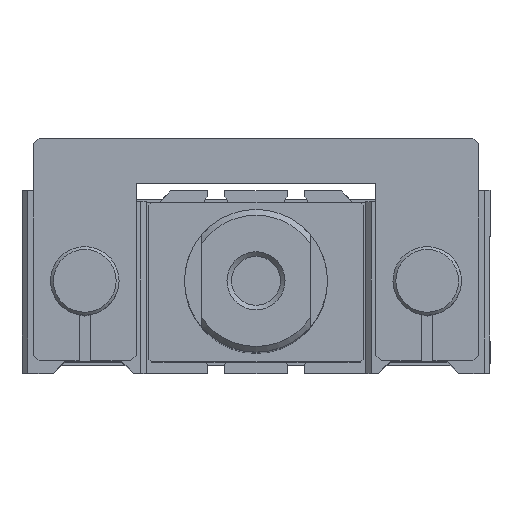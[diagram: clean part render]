
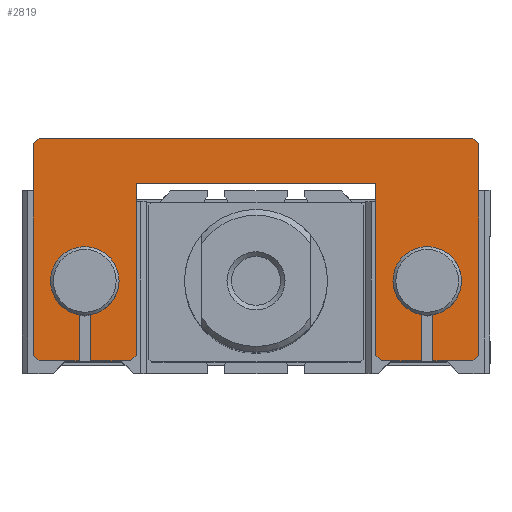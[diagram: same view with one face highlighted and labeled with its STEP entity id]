
A CAD part, top view. The second image highlights one B-rep face of the part: STEP entity #2819.
In plain terms, the highlighted planar face has unit normal (0, 0, 1).
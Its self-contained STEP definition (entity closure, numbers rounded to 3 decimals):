
#291=CARTESIAN_POINT('',(-29.0,-5.916,154.0));
#292=VERTEX_POINT('',#291);
#293=CARTESIAN_POINT('',(-31.0,-5.916,154.0));
#294=VERTEX_POINT('',#293);
#295=CARTESIAN_POINT('',(-30.0,0.0,154.0));
#296=DIRECTION('',(0.0,0.0,1.0));
#297=DIRECTION('',(0.0,-1.0,0.0));
#298=AXIS2_PLACEMENT_3D('',#295,#296,#297);
#299=CIRCLE('',#298,6.);
#300=EDGE_CURVE('',#292,#294,#299,.T.);
#378=CARTESIAN_POINT('',(31.,-5.916,154.0));
#379=VERTEX_POINT('',#378);
#380=CARTESIAN_POINT('',(29.,-5.916,154.0));
#381=VERTEX_POINT('',#380);
#382=CARTESIAN_POINT('',(30.0,0.0,154.0));
#383=DIRECTION('',(0.0,0.0,1.0));
#384=DIRECTION('',(0.0,-1.0,0.0));
#385=AXIS2_PLACEMENT_3D('',#382,#383,#384);
#386=CIRCLE('',#385,6.);
#387=EDGE_CURVE('',#379,#381,#386,.T.);
#2365=CARTESIAN_POINT('',(-39.0,24.,154.0));
#2366=VERTEX_POINT('',#2365);
#2367=CARTESIAN_POINT('',(-38.0,25.,154.0));
#2368=VERTEX_POINT('',#2367);
#2369=CARTESIAN_POINT('',(-39.0,24.,154.0));
#2370=DIRECTION('',(0.707,0.707,0.0));
#2371=VECTOR('',#2370,1.414);
#2372=LINE('',#2369,#2371);
#2373=EDGE_CURVE('',#2366,#2368,#2372,.T.);
#2429=CARTESIAN_POINT('',(-39.0,-13.,154.0));
#2430=VERTEX_POINT('',#2429);
#2437=CARTESIAN_POINT('',(-39.0,24.,154.0));
#2438=DIRECTION('',(0.0,-1.0,0.0));
#2439=VECTOR('',#2438,37.);
#2440=LINE('',#2437,#2439);
#2441=EDGE_CURVE('',#2366,#2430,#2440,.T.);
#2622=CARTESIAN_POINT('',(38.0,25.,154.0));
#2623=VERTEX_POINT('',#2622);
#2630=CARTESIAN_POINT('',(39.0,24.,154.0));
#2631=VERTEX_POINT('',#2630);
#2632=CARTESIAN_POINT('',(38.0,25.,154.0));
#2633=DIRECTION('',(0.707,-0.707,0.0));
#2634=VECTOR('',#2633,1.414);
#2635=LINE('',#2632,#2634);
#2636=EDGE_CURVE('',#2623,#2631,#2635,.T.);
#2653=CARTESIAN_POINT('',(39.0,-13.,154.0));
#2654=VERTEX_POINT('',#2653);
#2655=CARTESIAN_POINT('',(39.0,-13.,154.0));
#2656=DIRECTION('',(0.0,1.0,0.0));
#2657=VECTOR('',#2656,37.0);
#2658=LINE('',#2655,#2657);
#2659=EDGE_CURVE('',#2654,#2631,#2658,.T.);
#2686=CARTESIAN_POINT('',(0.0,-14.,154.0));
#2687=DIRECTION('',(0.0,0.0,1.0));
#2688=DIRECTION('',(1.0,0.0,0.0));
#2689=AXIS2_PLACEMENT_3D('',#2686,#2687,#2688);
#2690=PLANE('',#2689);
#2691=ORIENTED_EDGE('',*,*,#2373,.F.);
#2692=ORIENTED_EDGE('',*,*,#2441,.T.);
#2693=CARTESIAN_POINT('',(-38.0,-14.,154.0));
#2694=VERTEX_POINT('',#2693);
#2695=CARTESIAN_POINT('',(-38.0,-14.,154.0));
#2696=DIRECTION('',(-0.707,0.707,0.0));
#2697=VECTOR('',#2696,1.414);
#2698=LINE('',#2695,#2697);
#2699=EDGE_CURVE('',#2694,#2430,#2698,.T.);
#2700=ORIENTED_EDGE('',*,*,#2699,.F.);
#2701=CARTESIAN_POINT('',(-31.0,-14.,154.0));
#2702=VERTEX_POINT('',#2701);
#2703=CARTESIAN_POINT('',(-38.0,-14.,154.0));
#2704=DIRECTION('',(1.0,0.0,0.0));
#2705=VECTOR('',#2704,7.0);
#2706=LINE('',#2703,#2705);
#2707=EDGE_CURVE('',#2694,#2702,#2706,.T.);
#2708=ORIENTED_EDGE('',*,*,#2707,.T.);
#2709=CARTESIAN_POINT('',(-31.0,-14.,154.0));
#2710=DIRECTION('',(0.0,1.0,0.0));
#2711=VECTOR('',#2710,8.084);
#2712=LINE('',#2709,#2711);
#2713=EDGE_CURVE('',#2702,#294,#2712,.T.);
#2714=ORIENTED_EDGE('',*,*,#2713,.T.);
#2715=ORIENTED_EDGE('',*,*,#300,.F.);
#2716=CARTESIAN_POINT('',(-29.0,-14.,154.0));
#2717=VERTEX_POINT('',#2716);
#2718=CARTESIAN_POINT('',(-29.0,-5.916,154.0));
#2719=DIRECTION('',(0.0,-1.0,0.0));
#2720=VECTOR('',#2719,8.084);
#2721=LINE('',#2718,#2720);
#2722=EDGE_CURVE('',#292,#2717,#2721,.T.);
#2723=ORIENTED_EDGE('',*,*,#2722,.T.);
#2724=CARTESIAN_POINT('',(-22.0,-14.,154.0));
#2725=VERTEX_POINT('',#2724);
#2726=CARTESIAN_POINT('',(-29.0,-14.,154.0));
#2727=DIRECTION('',(1.0,0.0,0.0));
#2728=VECTOR('',#2727,7.0);
#2729=LINE('',#2726,#2728);
#2730=EDGE_CURVE('',#2717,#2725,#2729,.T.);
#2731=ORIENTED_EDGE('',*,*,#2730,.T.);
#2732=CARTESIAN_POINT('',(-21.0,-13.,154.0));
#2733=VERTEX_POINT('',#2732);
#2734=CARTESIAN_POINT('',(-21.0,-13.,154.0));
#2735=DIRECTION('',(-0.707,-0.707,0.0));
#2736=VECTOR('',#2735,1.414);
#2737=LINE('',#2734,#2736);
#2738=EDGE_CURVE('',#2733,#2725,#2737,.T.);
#2739=ORIENTED_EDGE('',*,*,#2738,.F.);
#2740=CARTESIAN_POINT('',(-21.0,17.,154.0));
#2741=VERTEX_POINT('',#2740);
#2742=CARTESIAN_POINT('',(-21.0,-13.,154.0));
#2743=DIRECTION('',(0.0,1.0,0.0));
#2744=VECTOR('',#2743,30.);
#2745=LINE('',#2742,#2744);
#2746=EDGE_CURVE('',#2733,#2741,#2745,.T.);
#2747=ORIENTED_EDGE('',*,*,#2746,.T.);
#2748=CARTESIAN_POINT('',(21.0,17.,154.0));
#2749=VERTEX_POINT('',#2748);
#2750=CARTESIAN_POINT('',(-21.0,17.,154.0));
#2751=DIRECTION('',(1.0,0.0,0.0));
#2752=VECTOR('',#2751,42.0);
#2753=LINE('',#2750,#2752);
#2754=EDGE_CURVE('',#2741,#2749,#2753,.T.);
#2755=ORIENTED_EDGE('',*,*,#2754,.T.);
#2756=CARTESIAN_POINT('',(21.0,-13.,154.0));
#2757=VERTEX_POINT('',#2756);
#2758=CARTESIAN_POINT('',(21.0,17.,154.0));
#2759=DIRECTION('',(0.0,-1.0,0.0));
#2760=VECTOR('',#2759,30.);
#2761=LINE('',#2758,#2760);
#2762=EDGE_CURVE('',#2749,#2757,#2761,.T.);
#2763=ORIENTED_EDGE('',*,*,#2762,.T.);
#2764=CARTESIAN_POINT('',(22.0,-14.,154.0));
#2765=VERTEX_POINT('',#2764);
#2766=CARTESIAN_POINT('',(22.0,-14.,154.0));
#2767=DIRECTION('',(-0.707,0.707,0.0));
#2768=VECTOR('',#2767,1.414);
#2769=LINE('',#2766,#2768);
#2770=EDGE_CURVE('',#2765,#2757,#2769,.T.);
#2771=ORIENTED_EDGE('',*,*,#2770,.F.);
#2772=CARTESIAN_POINT('',(29.,-14.,154.0));
#2773=VERTEX_POINT('',#2772);
#2774=CARTESIAN_POINT('',(22.0,-14.,154.0));
#2775=DIRECTION('',(1.0,0.0,0.0));
#2776=VECTOR('',#2775,7.);
#2777=LINE('',#2774,#2776);
#2778=EDGE_CURVE('',#2765,#2773,#2777,.T.);
#2779=ORIENTED_EDGE('',*,*,#2778,.T.);
#2780=CARTESIAN_POINT('',(29.,-14.,154.0));
#2781=DIRECTION('',(0.0,1.0,0.0));
#2782=VECTOR('',#2781,8.084);
#2783=LINE('',#2780,#2782);
#2784=EDGE_CURVE('',#2773,#381,#2783,.T.);
#2785=ORIENTED_EDGE('',*,*,#2784,.T.);
#2786=ORIENTED_EDGE('',*,*,#387,.F.);
#2787=CARTESIAN_POINT('',(31.,-14.,154.0));
#2788=VERTEX_POINT('',#2787);
#2789=CARTESIAN_POINT('',(31.,-5.916,154.0));
#2790=DIRECTION('',(0.0,-1.0,0.0));
#2791=VECTOR('',#2790,8.084);
#2792=LINE('',#2789,#2791);
#2793=EDGE_CURVE('',#379,#2788,#2792,.T.);
#2794=ORIENTED_EDGE('',*,*,#2793,.T.);
#2795=CARTESIAN_POINT('',(38.0,-14.,154.0));
#2796=VERTEX_POINT('',#2795);
#2797=CARTESIAN_POINT('',(31.,-14.,154.0));
#2798=DIRECTION('',(1.0,0.0,0.0));
#2799=VECTOR('',#2798,7.);
#2800=LINE('',#2797,#2799);
#2801=EDGE_CURVE('',#2788,#2796,#2800,.T.);
#2802=ORIENTED_EDGE('',*,*,#2801,.T.);
#2803=CARTESIAN_POINT('',(39.0,-13.,154.0));
#2804=DIRECTION('',(-0.707,-0.707,0.0));
#2805=VECTOR('',#2804,1.414);
#2806=LINE('',#2803,#2805);
#2807=EDGE_CURVE('',#2654,#2796,#2806,.T.);
#2808=ORIENTED_EDGE('',*,*,#2807,.F.);
#2809=ORIENTED_EDGE('',*,*,#2659,.T.);
#2810=ORIENTED_EDGE('',*,*,#2636,.F.);
#2811=CARTESIAN_POINT('',(-38.0,25.,154.0));
#2812=DIRECTION('',(1.0,0.0,0.0));
#2813=VECTOR('',#2812,76.0);
#2814=LINE('',#2811,#2813);
#2815=EDGE_CURVE('',#2368,#2623,#2814,.T.);
#2816=ORIENTED_EDGE('',*,*,#2815,.F.);
#2817=EDGE_LOOP('',(#2691,#2692,#2700,#2708,#2714,#2715,#2723,#2731,#2739,#2747,#2755,#2763,#2771,#2779,#2785,#2786,#2794,#2802,#2808,#2809,#2810,#2816));
#2818=FACE_OUTER_BOUND('',#2817,.T.);
#2819=ADVANCED_FACE('',(#2818),#2690,.T.);
